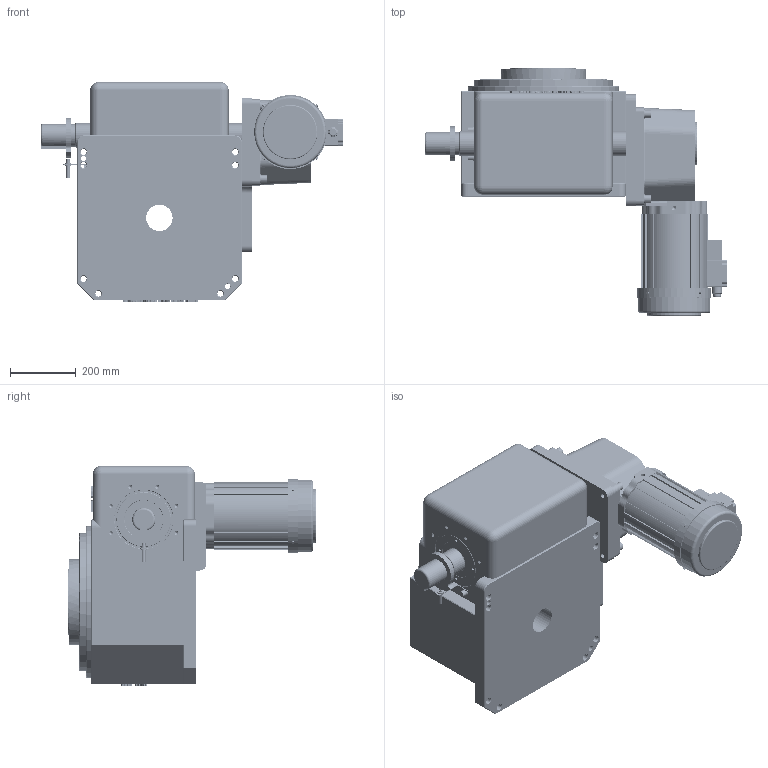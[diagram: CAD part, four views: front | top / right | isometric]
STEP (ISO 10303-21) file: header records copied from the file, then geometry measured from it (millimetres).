
FILE_DESCRIPTION (( 'STEP AP214' ), '1' );
FILE_NAME ('ER-RU250DT英锐凸轮分割器固定盘壳体法兰面销孔3D垂直直联式右侧ST(电话15062628977)AA.STEP', '2022-09-24T10:13:44', ( '微软用户' ), ( '微软中国' ), 'SwSTEP 2.0', 'SolidWorks 2017', '' );
FILE_SCHEMA (( 'AUTOMOTIVE_DESIGN' ));
Length unit declared in the file: millimetre
Products named in the file (1): ER-RU250DT英锐凸轮分割器固定盘壳体法兰面销孔3D垂直直联式右侧ST(电话15062628977)AA
Bounding box: 918 x 753 x 667 mm (x, y, z)
Volume: 112401567.7 mm3; surface area: 3207552.3 mm2
Topology: 5 solids, 14 shells, 3355 faces, 8839 edges, 5631 vertices
Faces by surface type: cylinder 1626, plane 848, bspline 505, cone 344, torus 28, sphere 4
Entity records: 287112 total; most frequent: CARTESIAN_POINT 186381, ORIENTED_EDGE 17394, DIRECTION 12437, EDGE_CURVE 8697, VERTEX_POINT 5631, AXIS2_PLACEMENT_3D 4306, LINE 3825, VECTOR 3825
